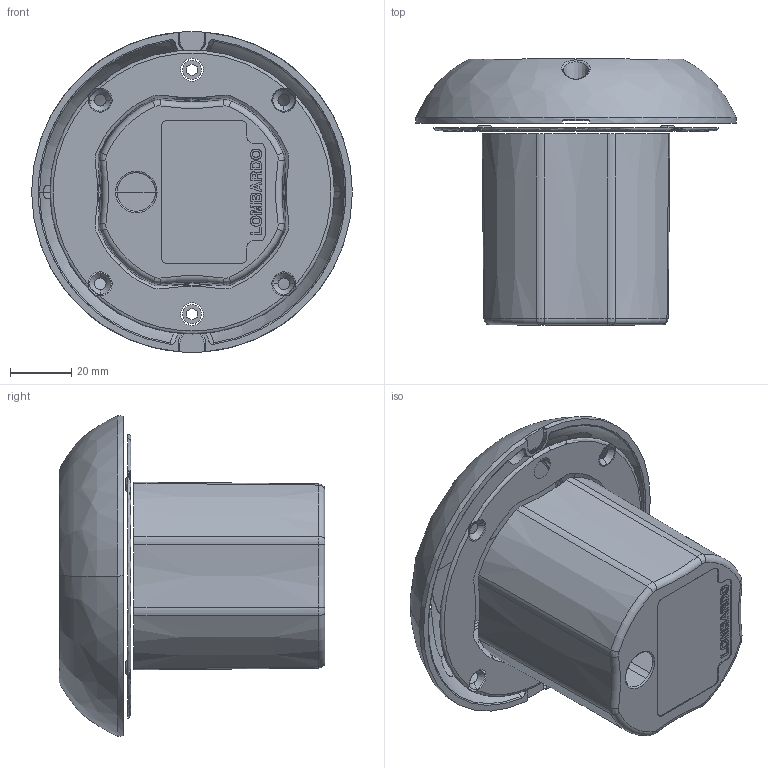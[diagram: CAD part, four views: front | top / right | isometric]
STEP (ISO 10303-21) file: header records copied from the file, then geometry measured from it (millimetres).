
FILE_DESCRIPTION((''),'2;1');
FILE_NAME('FIN-INC-TUT-LUCE-700M_SW0001','2025-07-30T16:22:31',('Piccioli'),(''),'CREO PARAMETRIC BY PTC INC, 2025010','CREO PARAMETRIC BY PTC INC, 2025010','');
FILE_SCHEMA(('CONFIG_CONTROL_DESIGN'));
Length unit declared in the file: millimetre
Products named in the file (1): FIN-INC-TUT-LUCE-700M_SW0001
Bounding box: 105 x 87 x 105 mm (x, y, z)
Surface area: 39599.9 mm2 (no closed solid volume)
Topology: 0 solids, 26 shells, 92 faces, 686 edges, 605 vertices
Faces by surface type: plane 24, cone 20, bspline 20, torus 18, revolution 6, cylinder 2, sphere 2
Entity records: 14642 total; most frequent: CARTESIAN_POINT 10247, ORIENTED_EDGE 822, DIRECTION 700, EDGE_CURVE 684, VERTEX_POINT 605, B_SPLINE_CURVE_WITH_KNOTS 326, AXIS2_PLACEMENT_3D 264, CIRCLE 198
